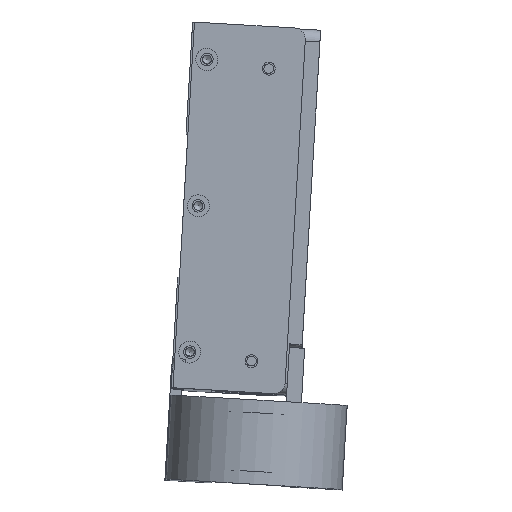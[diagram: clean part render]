
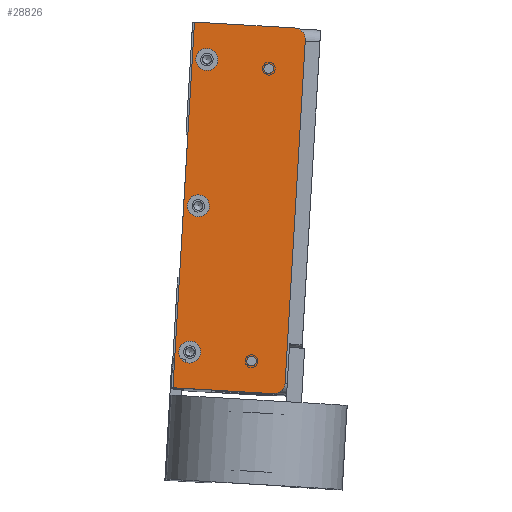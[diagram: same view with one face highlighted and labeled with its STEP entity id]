
A CAD part, top view. The second image highlights one B-rep face of the part: STEP entity #28826.
In plain terms, the highlighted planar face has unit normal (0, 0, 1) as drawn and (0, -1, 0) by its records, which use the part's own axes.
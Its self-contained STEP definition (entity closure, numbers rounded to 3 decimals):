
#820=PLANE($,#31277);
#1899=FACE_BOUND($,#5102,.T.);
#1900=FACE_BOUND($,#5103,.T.);
#1901=FACE_BOUND($,#5104,.T.);
#1902=FACE_BOUND($,#5105,.T.);
#1903=FACE_BOUND($,#5106,.T.);
#1904=FACE_BOUND($,#5107,.T.);
#5102=EDGE_LOOP($,(#22910));
#5103=EDGE_LOOP($,(#22911));
#5104=EDGE_LOOP($,(#22912));
#5105=EDGE_LOOP($,(#22913));
#5106=EDGE_LOOP($,(#22914));
#5107=EDGE_LOOP($,(#22915,#22916,#22917,#22918,#22919,#22920));
#7263=LINE($,#45562,#9829);
#7266=LINE($,#45578,#9832);
#7267=LINE($,#45580,#9833);
#7268=LINE($,#45582,#9834);
#9829=VECTOR($,#36581,93.65);
#9832=VECTOR($,#36596,27.325);
#9833=VECTOR($,#36597,100.);
#9834=VECTOR($,#36598,27.325);
#12323=CIRCLE($,#31274,3.175);
#12325=CIRCLE($,#31278,3.);
#12326=CIRCLE($,#31279,3.);
#12327=CIRCLE($,#31280,3.);
#12328=CIRCLE($,#31281,1.321);
#12329=CIRCLE($,#31282,1.321);
#12330=CIRCLE($,#31283,3.175);
#13996=VERTEX_POINT($,#45552);
#13997=VERTEX_POINT($,#45553);
#14000=VERTEX_POINT($,#45561);
#14002=VERTEX_POINT($,#45567);
#14003=VERTEX_POINT($,#45569);
#14004=VERTEX_POINT($,#45571);
#14005=VERTEX_POINT($,#45573);
#14006=VERTEX_POINT($,#45575);
#14007=VERTEX_POINT($,#45577);
#14008=VERTEX_POINT($,#45579);
#14009=VERTEX_POINT($,#45581);
#17277=EDGE_CURVE($,#13996,#13997,#12323,.T.);
#17281=EDGE_CURVE($,#13997,#14000,#7263,.T.);
#17284=EDGE_CURVE($,#14002,#14002,#12325,.T.);
#17285=EDGE_CURVE($,#14003,#14003,#12326,.T.);
#17286=EDGE_CURVE($,#14004,#14004,#12327,.T.);
#17287=EDGE_CURVE($,#14005,#14005,#12328,.T.);
#17288=EDGE_CURVE($,#14006,#14006,#12329,.T.);
#17289=EDGE_CURVE($,#13996,#14007,#7266,.T.);
#17290=EDGE_CURVE($,#14007,#14008,#7267,.T.);
#17291=EDGE_CURVE($,#14008,#14009,#7268,.T.);
#17292=EDGE_CURVE($,#14000,#14009,#12330,.T.);
#22910=ORIENTED_EDGE($,*,*,#17284,.T.);
#22911=ORIENTED_EDGE($,*,*,#17285,.T.);
#22912=ORIENTED_EDGE($,*,*,#17286,.T.);
#22913=ORIENTED_EDGE($,*,*,#17287,.T.);
#22914=ORIENTED_EDGE($,*,*,#17288,.T.);
#22915=ORIENTED_EDGE($,*,*,#17277,.F.);
#22916=ORIENTED_EDGE($,*,*,#17289,.T.);
#22917=ORIENTED_EDGE($,*,*,#17290,.T.);
#22918=ORIENTED_EDGE($,*,*,#17291,.T.);
#22919=ORIENTED_EDGE($,*,*,#17292,.F.);
#22920=ORIENTED_EDGE($,*,*,#17281,.F.);
#28826=ADVANCED_FACE($,(#1899,#1900,#1901,#1902,#1903,#1904),#820,.T.);
#31274=AXIS2_PLACEMENT_3D($,#45554,#36573,#36574);
#31277=AXIS2_PLACEMENT_3D($,#45566,#36584,#36585);
#31278=AXIS2_PLACEMENT_3D($,#45568,#36586,#36587);
#31279=AXIS2_PLACEMENT_3D($,#45570,#36588,#36589);
#31280=AXIS2_PLACEMENT_3D($,#45572,#36590,#36591);
#31281=AXIS2_PLACEMENT_3D($,#45574,#36592,#36593);
#31282=AXIS2_PLACEMENT_3D($,#45576,#36594,#36595);
#31283=AXIS2_PLACEMENT_3D($,#45583,#36599,#36600);
#36573=DIRECTION('center_axis',(0.,1.,0.));
#36574=DIRECTION('ref_axis',(0.707,0.,0.707));
#36581=DIRECTION($,(0.,0.,-1.));
#36584=DIRECTION('center_axis',(0.,-1.,0.));
#36585=DIRECTION('ref_axis',(0.,0.,-1.));
#36586=DIRECTION('center_axis',(0.,1.,0.));
#36587=DIRECTION('ref_axis',(1.,0.,0.));
#36588=DIRECTION('center_axis',(0.,1.,0.));
#36589=DIRECTION('ref_axis',(1.,0.,0.));
#36590=DIRECTION('center_axis',(0.,1.,0.));
#36591=DIRECTION('ref_axis',(1.,0.,0.));
#36592=DIRECTION('center_axis',(0.,1.,0.));
#36593=DIRECTION('ref_axis',(1.,0.,0.));
#36594=DIRECTION('center_axis',(0.,1.,0.));
#36595=DIRECTION('ref_axis',(1.,0.,0.));
#36596=DIRECTION($,(-1.,0.,0.));
#36597=DIRECTION($,(0.,0.,-1.));
#36598=DIRECTION($,(1.,0.,0.));
#36599=DIRECTION('center_axis',(0.,1.,0.));
#36600=DIRECTION('ref_axis',(0.707,0.,-0.707));
#45552=CARTESIAN_POINT('',(12.075,-2.5,50.));
#45553=CARTESIAN_POINT('',(15.25,-2.5,46.825));
#45554=CARTESIAN_POINT('Origin',(12.075,-2.5,46.825));
#45561=CARTESIAN_POINT('',(15.25,-2.5,-46.825));
#45562=CARTESIAN_POINT($,(15.25,-2.5,0.));
#45566=CARTESIAN_POINT('Origin',(15.25,-2.5,0.));
#45567=CARTESIAN_POINT('',(-8.25,-2.5,0.));
#45568=CARTESIAN_POINT('Origin',(-11.25,-2.5,0.));
#45569=CARTESIAN_POINT('',(-8.25,-2.5,40.));
#45570=CARTESIAN_POINT('Origin',(-11.25,-2.5,40.));
#45571=CARTESIAN_POINT('',(-8.25,-2.5,-40.));
#45572=CARTESIAN_POINT('Origin',(-11.25,-2.5,-40.));
#45573=CARTESIAN_POINT('',(7.071,-2.5,38.5));
#45574=CARTESIAN_POINT('Origin',(5.75,-2.5,38.5));
#45575=CARTESIAN_POINT('',(7.037,-2.5,-41.5));
#45576=CARTESIAN_POINT('Origin',(5.716,-2.5,-41.5));
#45577=CARTESIAN_POINT('',(-15.25,-2.5,50.));
#45578=CARTESIAN_POINT($,(15.25,-2.5,50.));
#45579=CARTESIAN_POINT('',(-15.25,-2.5,-50.));
#45580=CARTESIAN_POINT($,(-15.25,-2.5,0.));
#45581=CARTESIAN_POINT('',(12.075,-2.5,-50.));
#45582=CARTESIAN_POINT($,(15.25,-2.5,-50.));
#45583=CARTESIAN_POINT('Origin',(12.075,-2.5,-46.825));
